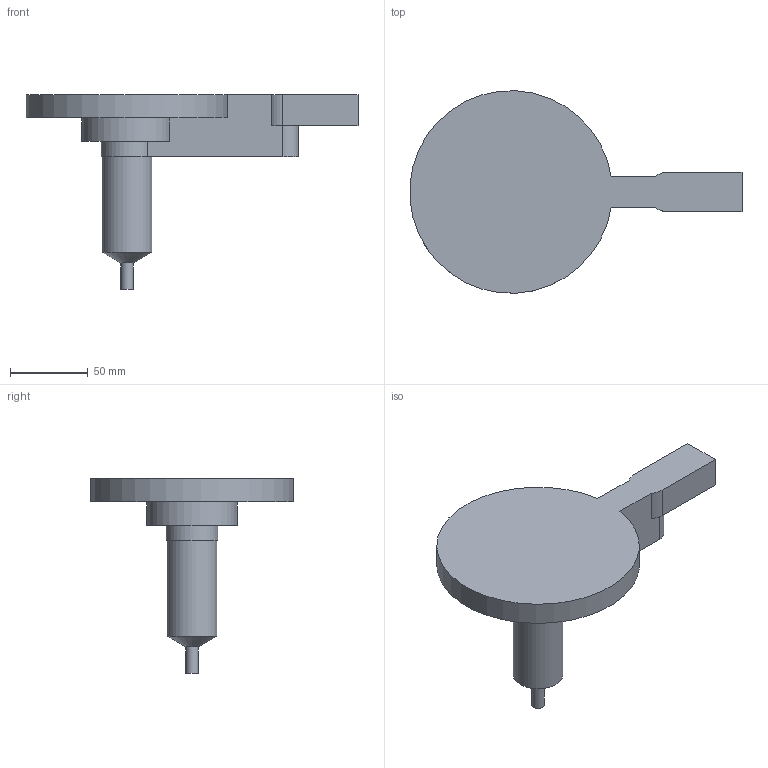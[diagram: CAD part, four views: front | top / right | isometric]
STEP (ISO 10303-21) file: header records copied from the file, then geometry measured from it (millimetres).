
FILE_DESCRIPTION( ( 'STEP AP214' ), '1' );
FILE_NAME( 'D:/PROIECTE_YUDO_2009/PROIECTE YUDO 3D/BLS/YUEU09-BLS18TLC080/BLS18TLC080_CutOut.step', '2009-02-04T07:42:38', ( ' ' ), ( ' ' ), 'XStep 1.0', ' ', ' ' );
FILE_SCHEMA( ( 'automotive_design' ) );
Length unit declared in the file: millimetre
Products named in the file (1): 1
Bounding box: 212.95 x 129.83 x 125 mm (x, y, z)
Volume: 376406.9 mm3; surface area: 54246.1 mm2
Topology: 1 solids, 1 shells, 20 faces, 49 edges, 32 vertices
Faces by surface type: plane 11, cylinder 8, cone 1
Full cylindrical faces by diameter (mm): 8 x1, 32 x1
Entity records: 754 total; most frequent: DIRECTION 104, CARTESIAN_POINT 99, ORIENTED_EDGE 92, EDGE_CURVE 46, AXIS2_PLACEMENT_3D 37, VERTEX_POINT 32, LINE 30, VECTOR 30
